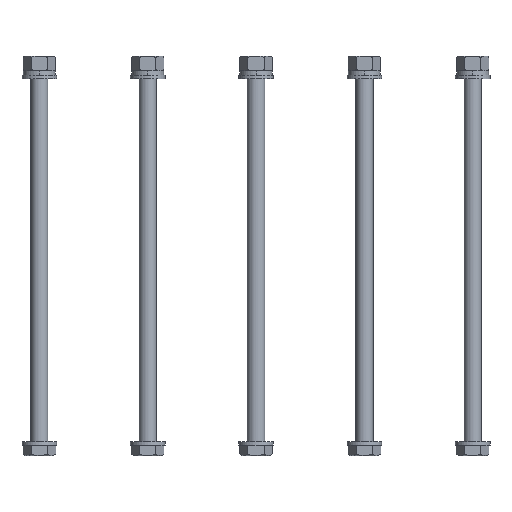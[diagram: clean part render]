
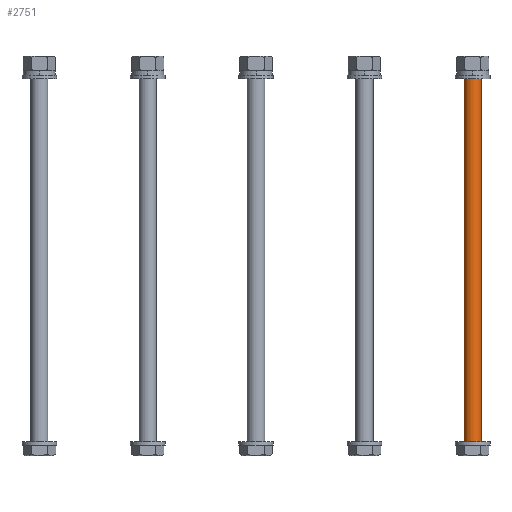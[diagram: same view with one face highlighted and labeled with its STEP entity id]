
A CAD part, front view. The second image highlights one B-rep face of the part: STEP entity #2751.
In plain terms, the highlighted cylindrical face has radius 4 mm (diameter 8 mm), a partial arc.
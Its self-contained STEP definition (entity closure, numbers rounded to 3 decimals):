
#2511=CARTESIAN_POINT(' ',(0.,0.,5.5));
#2516=DIRECTION(' ',(0.,-0.,1.));
#2521=DIRECTION(' ',(-1.,0.,0.));
#2526=AXIS2_PLACEMENT_3D(' ',#2511,#2516,#2521);
#2531=CIRCLE('',#2526,4.);
#2536=CARTESIAN_POINT(' ',(-4.,0.,5.5));
#2537=VERTEX_POINT(' ',#2536);
#2541=CARTESIAN_POINT(' ',(4.,0.,5.5));
#2542=VERTEX_POINT(' ',#2541);
#2546=EDGE_CURVE(' ',#2537,#2542,#2531,.T.);
#2606=CARTESIAN_POINT(' ',(0.,0.,185.));
#2611=DIRECTION(' ',(-0.,-0.,-1.));
#2616=DIRECTION(' ',(1.,0.,-0.));
#2621=AXIS2_PLACEMENT_3D(' ',#2606,#2611,#2616);
#2626=CYLINDRICAL_SURFACE(' ',#2621,4.);
#2631=CARTESIAN_POINT(' ',(4.,0.,184.5));
#2636=DIRECTION(' ',(0.,0.,-1.));
#2641=VECTOR(' ',#2636,1.);
#2646=LINE('',#2631,#2641);
#2651=CARTESIAN_POINT(' ',(4.,0.,184.5));
#2652=VERTEX_POINT(' ',#2651);
#2656=EDGE_CURVE(' ',#2652,#2542,#2646,.T.);
#2661=ORIENTED_EDGE(' ',*,*,#2656,.F.);
#2666=CARTESIAN_POINT(' ',(0.,0.,184.5));
#2671=DIRECTION(' ',(0.,0.,-1.));
#2676=DIRECTION(' ',(1.,0.,0.));
#2681=AXIS2_PLACEMENT_3D(' ',#2666,#2671,#2676);
#2686=CIRCLE('',#2681,4.);
#2691=CARTESIAN_POINT(' ',(-4.,0.,184.5));
#2692=VERTEX_POINT(' ',#2691);
#2696=EDGE_CURVE(' ',#2652,#2692,#2686,.T.);
#2701=ORIENTED_EDGE(' ',*,*,#2696,.T.);
#2706=CARTESIAN_POINT(' ',(-4.,0.,184.5));
#2711=DIRECTION(' ',(0.,0.,-1.));
#2716=VECTOR(' ',#2711,1.);
#2721=LINE('',#2706,#2716);
#2726=EDGE_CURVE(' ',#2692,#2537,#2721,.T.);
#2731=ORIENTED_EDGE(' ',*,*,#2726,.T.);
#2736=ORIENTED_EDGE(' ',*,*,#2546,.T.);
#2741=EDGE_LOOP(' ',(#2661,#2701,#2731,#2736));
#2746=FACE_OUTER_BOUND(' ',#2741,.T.);
#2751=ADVANCED_FACE('NONE',(#2746),#2626,.T.);
